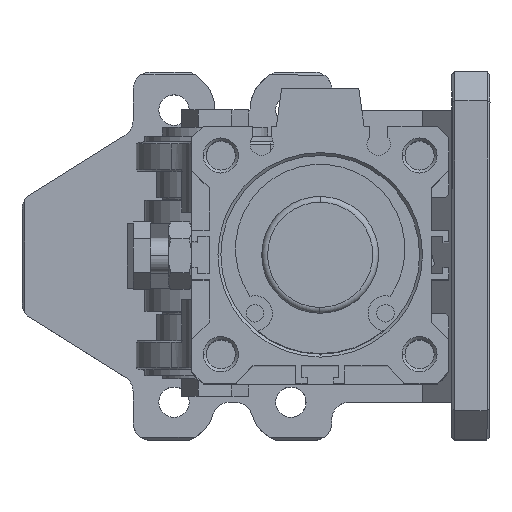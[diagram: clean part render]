
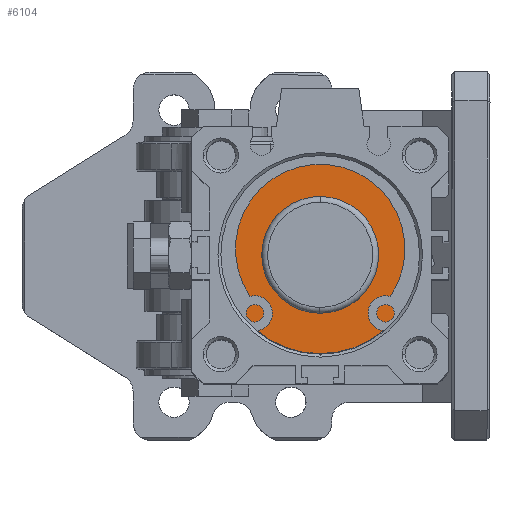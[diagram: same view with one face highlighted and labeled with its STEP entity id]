
A CAD part, top view. The second image highlights one B-rep face of the part: STEP entity #6104.
In plain terms, the highlighted planar face has unit normal (0, 0, 1).
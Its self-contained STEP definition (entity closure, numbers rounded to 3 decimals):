
#6104=ADVANCED_FACE('',(#7547,#7548),#7074,.F.);
#7074=PLANE('',#22341);
#7547=FACE_BOUND('',#8371,.T.);
#7548=FACE_BOUND('',#8372,.T.);
#8371=EDGE_LOOP('',(#11813,#11814));
#8372=EDGE_LOOP('',(#11815,#11816));
#11813=ORIENTED_EDGE('',*,*,#18469,.T.);
#11814=ORIENTED_EDGE('',*,*,#18467,.T.);
#11815=ORIENTED_EDGE('',*,*,#18479,.T.);
#11816=ORIENTED_EDGE('',*,*,#18477,.F.);
#16073=VERTEX_POINT('',#32922);
#16074=VERTEX_POINT('',#32924);
#16079=VERTEX_POINT('',#32943);
#16080=VERTEX_POINT('',#32945);
#18467=EDGE_CURVE('',#16074,#16073,#20653,.T.);
#18469=EDGE_CURVE('',#16073,#16074,#20654,.T.);
#18477=EDGE_CURVE('',#16079,#16080,#20661,.T.);
#18479=EDGE_CURVE('',#16079,#16080,#20662,.T.);
#20653=CIRCLE('',#22324,16.9);
#20654=CIRCLE('',#22326,16.9);
#20661=CIRCLE('',#22337,10.);
#20662=CIRCLE('',#22339,10.);
#22324=AXIS2_PLACEMENT_3D('',#32923,#26523,#26524);
#22326=AXIS2_PLACEMENT_3D('',#32927,#26528,#26529);
#22337=AXIS2_PLACEMENT_3D('',#32944,#26551,#26552);
#22339=AXIS2_PLACEMENT_3D('',#32948,#26556,#26557);
#22341=AXIS2_PLACEMENT_3D('',#32950,#26560,#26561);
#26523=DIRECTION('',(0.,0.,1.));
#26524=DIRECTION('',(0.011,1.,0.));
#26528=DIRECTION('',(0.,0.,1.));
#26529=DIRECTION('',(0.011,1.,0.));
#26551=DIRECTION('',(0.,0.,1.));
#26552=DIRECTION('',(0.011,1.,0.));
#26556=DIRECTION('',(0.,0.,-1.));
#26557=DIRECTION('',(0.011,1.,0.));
#26560=DIRECTION('',(0.,0.,-1.));
#26561=DIRECTION('',(0.011,1.,0.));
#32922=CARTESIAN_POINT('',(0.192,416.899,-3.3));
#32923=CARTESIAN_POINT('',(0.,400.,-3.3));
#32924=CARTESIAN_POINT('',(-0.192,383.101,-3.3));
#32927=CARTESIAN_POINT('',(0.,400.,-3.3));
#32943=CARTESIAN_POINT('',(0.113,409.999,-3.3));
#32944=CARTESIAN_POINT('',(0.,400.,-3.3));
#32945=CARTESIAN_POINT('',(-0.113,390.001,-3.3));
#32948=CARTESIAN_POINT('',(0.,400.,-3.3));
#32950=CARTESIAN_POINT('',(0.,400.,-3.3));
